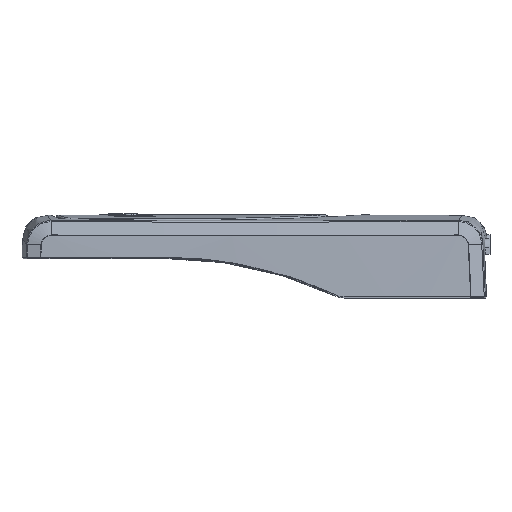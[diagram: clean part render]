
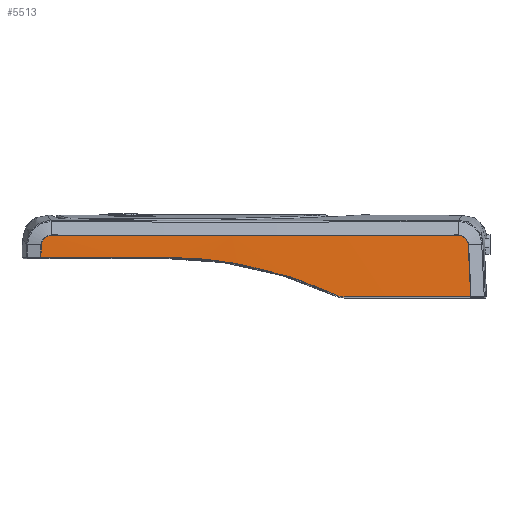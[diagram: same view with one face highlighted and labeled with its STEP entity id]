
A CAD part, left-side view. The second image highlights one B-rep face of the part: STEP entity #5513.
In plain terms, the highlighted conical face has half-angle 3 degrees and reference radius 3421.09 mm.
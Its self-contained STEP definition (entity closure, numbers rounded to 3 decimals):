
#1558=CARTESIAN_POINT('',(-44.665,-159.142,
131.849));
#1571=CARTESIAN_POINT('',(-46.1,-95.156,
131.849));
#1572=CARTESIAN_POINT('',(-46.106,-94.697,
131.849));
#1573=CARTESIAN_POINT('',(-46.114,-93.791,
131.915));
#1574=CARTESIAN_POINT('',(-46.116,-92.449,
132.213));
#1575=CARTESIAN_POINT('',(-46.108,-91.6,
132.535));
#1576=CARTESIAN_POINT('',(-46.103,-91.185,
132.729));
#1578=CARTESIAN_POINT('',(-46.103,-91.185,
132.729));
#1579=CARTESIAN_POINT('',(-46.035,-85.789,
135.244));
#1580=CARTESIAN_POINT('',(-45.904,-74.826,
139.783));
#1581=CARTESIAN_POINT('',(-45.702,-57.81,
145.147));
#1582=CARTESIAN_POINT('',(-45.494,-40.406,
149.004));
#1583=CARTESIAN_POINT('',(-45.275,-22.718,
151.331));
#1584=CARTESIAN_POINT('',(-45.12,-10.865,
151.849));
#1585=CARTESIAN_POINT('',(-45.041,-4.912,
151.849));
#1587=CARTESIAN_POINT('',(-43.614,58.375,151.849));
#1588=CARTESIAN_POINT('',(-43.579,58.344,152.549));
#1589=CARTESIAN_POINT('',(-43.507,58.285,153.956));
#1590=CARTESIAN_POINT('',(-43.398,58.208,156.084));
#1591=CARTESIAN_POINT('',(-43.324,58.159,157.515));
#1592=CARTESIAN_POINT('',(-43.287,58.136,158.233));
#1594=CARTESIAN_POINT('',(-43.287,58.136,158.233));
#1595=CARTESIAN_POINT('',(-43.226,58.011,159.472));
#1596=CARTESIAN_POINT('',(-43.136,56.894,161.878));
#1597=CARTESIAN_POINT('',(-43.157,54.446,162.912));
#1598=CARTESIAN_POINT('',(-43.192,53.202,162.971));
#1600=CARTESIAN_POINT('',(-43.192,53.202,162.971));
#1601=CARTESIAN_POINT('',(-43.891,30.303,162.868));
#1602=CARTESIAN_POINT('',(-44.826,-15.509,
162.73));
#1603=CARTESIAN_POINT('',(-44.837,-84.241,
162.728));
#1604=CARTESIAN_POINT('',(-43.917,-130.054,
162.864));
#1605=CARTESIAN_POINT('',(-43.225,-152.953,
162.966));
#1607=CARTESIAN_POINT('',(-43.225,-152.953,
162.966));
#1608=CARTESIAN_POINT('',(-43.211,-153.426,
162.951));
#1609=CARTESIAN_POINT('',(-43.192,-154.347,
162.778));
#1610=CARTESIAN_POINT('',(-43.184,-155.737,
162.118));
#1611=CARTESIAN_POINT('',(-43.209,-156.872,
160.982));
#1612=CARTESIAN_POINT('',(-43.242,-157.487,
159.983));
#1613=CARTESIAN_POINT('',(-43.29,-157.782,
158.897));
#1614=CARTESIAN_POINT('',(-43.318,-157.882,
158.291));
#1616=CARTESIAN_POINT('',(-43.318,-157.882,
158.291));
#1617=CARTESIAN_POINT('',(-43.468,-158.021,
155.353));
#1618=CARTESIAN_POINT('',(-43.767,-158.3,
149.477));
#1619=CARTESIAN_POINT('',(-44.216,-158.703,
140.662));
#1620=CARTESIAN_POINT('',(-44.516,-158.994,
134.787));
#1621=CARTESIAN_POINT('',(-44.665,-159.142,
131.849));
#1623=CARTESIAN_POINT('',(3375.508,-50.412,131.847));
#1624=DIRECTION('',(0.,0.,1.));
#1625=DIRECTION('',(-1.,-0.013,0.));
#1626=AXIS2_PLACEMENT_3D('',#1623,#1624,#1625);
#1704=CARTESIAN_POINT('',(3375.508,-50.412,151.85));
#1705=DIRECTION('',(0.,0.,1.));
#1706=DIRECTION('',(-0.999,0.032,0.));
#1707=AXIS2_PLACEMENT_3D('',#1704,#1705,#1706);
#2964=VERTEX_POINT('',#1587);
#2965=VERTEX_POINT('',#1592);
#2966=VERTEX_POINT('',#1600);
#2967=VERTEX_POINT('',#1605);
#2968=VERTEX_POINT('',#1614);
#3001=VERTEX_POINT('',#1558);
#3147=VERTEX_POINT('',#1571);
#3148=VERTEX_POINT('',#1576);
#3149=VERTEX_POINT('',#1585);
#5489=CARTESIAN_POINT('',(3375.508,-50.412,147.41));
#5490=DIRECTION('',(0.,0.,-1.));
#5491=DIRECTION('',(0.999,-0.033,0.));
#5492=AXIS2_PLACEMENT_3D('',#5489,#5490,#5491);
#5493=CONICAL_SURFACE('',#5492,3421.085,3.);
#5495=ORIENTED_EDGE('',*,*,#5494,.F.);
#5497=ORIENTED_EDGE('',*,*,#5496,.T.);
#5499=ORIENTED_EDGE('',*,*,#5498,.T.);
#5501=ORIENTED_EDGE('',*,*,#5500,.F.);
#5503=ORIENTED_EDGE('',*,*,#5502,.T.);
#5505=ORIENTED_EDGE('',*,*,#5504,.T.);
#5507=ORIENTED_EDGE('',*,*,#5506,.T.);
#5509=ORIENTED_EDGE('',*,*,#5508,.T.);
#5510=ORIENTED_EDGE('',*,*,#5481,.T.);
#5511=EDGE_LOOP('',(#5495,#5497,#5499,#5501,#5503,#5505,#5507,#5509,#5510));
#5512=FACE_OUTER_BOUND('',#5511,.F.);
#5513=ADVANCED_FACE('',(#5512),#5493,.T.);
#1577=B_SPLINE_CURVE_WITH_KNOTS('',3,(#1571,#1572,#1573,#1574,#1575,#1576),
.UNSPECIFIED.,.F.,.F.,(4,1,1,4),(0.,0.333,0.667,1.),
.UNSPECIFIED.);
#1586=B_SPLINE_CURVE_WITH_KNOTS('',3,(#1578,#1579,#1580,#1581,#1582,#1583,#1584,
#1585),.UNSPECIFIED.,.F.,.F.,(4,1,1,1,1,4),(0.,0.2,0.4,0.6,0.8,1.),
.UNSPECIFIED.);
#1593=B_SPLINE_CURVE_WITH_KNOTS('',3,(#1587,#1588,#1589,#1590,#1591,#1592),
.UNSPECIFIED.,.F.,.F.,(4,1,1,4),(0.,0.333,0.667,1.),
.UNSPECIFIED.);
#1599=B_SPLINE_CURVE_WITH_KNOTS('',3,(#1594,#1595,#1596,#1597,#1598),
.UNSPECIFIED.,.F.,.F.,(4,1,4),(0.,0.5,1.),.UNSPECIFIED.);
#1606=B_SPLINE_CURVE_WITH_KNOTS('',3,(#1600,#1601,#1602,#1603,#1604,#1605),
.UNSPECIFIED.,.F.,.F.,(4,1,1,4),(0.,0.333,0.667,1.),
.UNSPECIFIED.);
#1615=B_SPLINE_CURVE_WITH_KNOTS('',3,(#1607,#1608,#1609,#1610,#1611,#1612,#1613,
#1614),.UNSPECIFIED.,.F.,.F.,(4,1,1,1,1,4),(0.,0.2,0.4,0.6,0.8,1.),
.UNSPECIFIED.);
#1622=B_SPLINE_CURVE_WITH_KNOTS('',3,(#1616,#1617,#1618,#1619,#1620,#1621),
.UNSPECIFIED.,.F.,.F.,(4,1,1,4),(0.,0.333,0.667,1.),
.UNSPECIFIED.);
#1627=CIRCLE('',#1626,3421.901);
#1708=CIRCLE('',#1707,3420.852);
#5481=EDGE_CURVE('',#2968,#3001,#1622,.T.);
#5494=EDGE_CURVE('',#3147,#3001,#1627,.T.);
#5496=EDGE_CURVE('',#3147,#3148,#1577,.T.);
#5498=EDGE_CURVE('',#3148,#3149,#1586,.T.);
#5500=EDGE_CURVE('',#2964,#3149,#1708,.T.);
#5502=EDGE_CURVE('',#2964,#2965,#1593,.T.);
#5504=EDGE_CURVE('',#2965,#2966,#1599,.T.);
#5506=EDGE_CURVE('',#2966,#2967,#1606,.T.);
#5508=EDGE_CURVE('',#2967,#2968,#1615,.T.);
